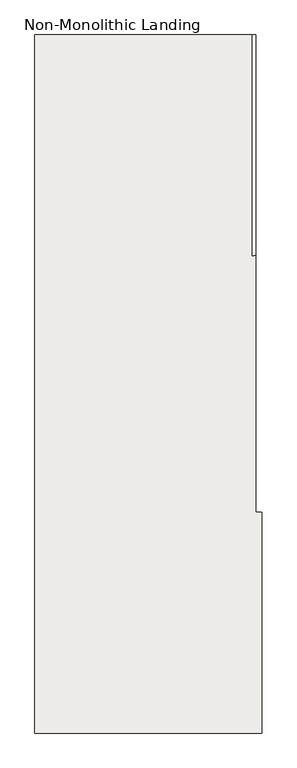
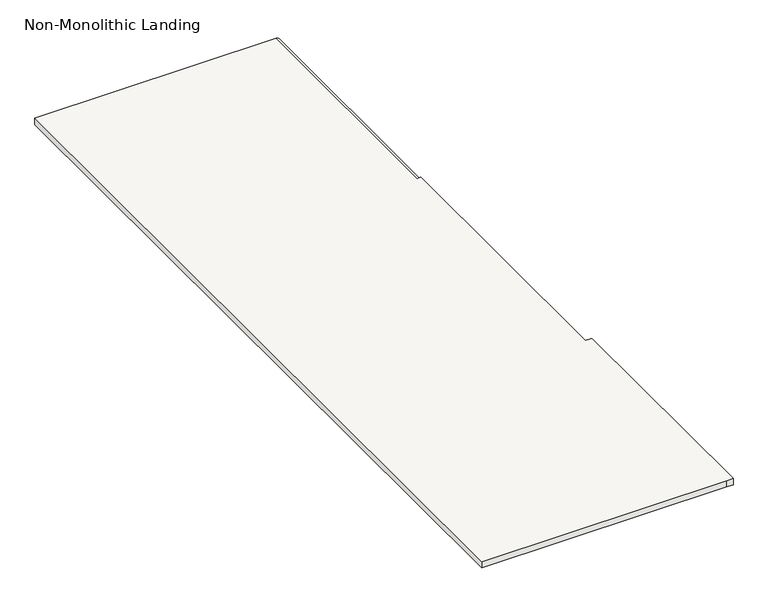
"""IFC4 building model written with IfcOpenShell, lengths in millimetres: slab geometry, Non-Monolithic Landing."""

from ifc_helpers import new_model, si_unit, frame, origin, place, context, project, spatial, circle_curve, source, transform, mapped, element, save
from ifc_brep_helpers import plane_surface, cylinder_surface, advanced_brep


def non_monolithic_landing_e03b7bd7(model_context):
    return source(origin(), model_context, "Body", "AdvancedBrep", [
        advanced_brep(
        [(8321.383999, -2157.718869, 1498.6), (8321.383999, -2157.718869, 1524.0), (8321.383999, -3072.118869, 1524.0), (8334.083999, -3072.118869, 1511.3), (8321.383999, -3072.118869, 1498.6), (8334.083999, -3072.118869, 1524.0), (7419.683999, -2157.718869, 1524.0), (7419.683999, -5051.4417963, 1524.0), (8334.083999, -5051.4417963, 1524.0), (8359.483999, -5051.4417963, 1524.0), (8359.483999, -4137.0417963, 1524.0), (8334.083999, -4137.0417963, 1524.0), (8334.083999, -3072.118869, 1498.6), (8334.083999, -4137.0417963, 1498.6), (8359.483999, -4137.0417963, 1498.6), (8359.483999, -5051.4417963, 1498.6), (8334.083999, -5051.4417963, 1498.6), (7419.683999, -5051.4417963, 1498.6), (7419.683999, -2157.718869, 1498.6)],
        [
            (0, 1, circle_curve(frame((8321.383999, -2157.718869, 1511.3), z_axis=(0.0, -1.0, 0.0), x_axis=(-1.0, 0.0, 0.0)), 12.7)),
            (1, 2),
            (2, 3, circle_curve(frame((8321.383999, -3072.118869, 1511.3), z_axis=(0.0, 1.0, 0.0), x_axis=(-1.0, 0.0, 0.0)), 12.7)),
            (3, 4, circle_curve(frame((8321.383999, -3072.118869, 1511.3), z_axis=(0.0, 1.0, 0.0), x_axis=(-1.0, 0.0, 0.0)), 12.7)),
            (4, 0),
            (5, 2),
            (1, 6),
            (6, 7),
            (7, 8),
            (8, 9),
            (9, 10),
            (10, 11),
            (11, 5),
            (4, 12),
            (12, 13),
            (13, 14),
            (14, 15),
            (15, 16),
            (16, 17),
            (17, 18),
            (18, 0),
            (5, 3),
            (3, 12),
            (18, 6),
            (17, 7),
            (16, 8),
            (15, 9),
            (14, 10),
            (13, 11),
        ],
        [
            cylinder_surface(frame((8321.383999, -2157.718869, 1511.3), z_axis=(0.0, 1.0, 0.0), x_axis=(-1.0, 0.0, 0.0)), 12.7),
            plane_surface(frame((8334.083999, -3072.118869, 1524.0), z_axis=(0.0, 0.0, 1.0), x_axis=(-1.0, 0.0, 0.0))),
            plane_surface(frame((8334.083999, -3072.118869, 1498.6), z_axis=(0.0, 0.0, -1.0), x_axis=(1.0, 0.0, 0.0))),
            plane_surface(frame((8334.083999, -3072.118869, 1524.0), z_axis=(0.0, 1.0, 0.0), x_axis=(0.0, 0.0, -1.0))),
            plane_surface(frame((8321.383999, -2157.718869, 1524.0), z_axis=(0.0, 1.0, 0.0), x_axis=(0.0, 0.0, -1.0))),
            plane_surface(frame((7419.683999, -2157.718869, 1524.0), z_axis=(-1.0, 0.0, 0.0), x_axis=(0.0, 0.0, -1.0))),
            plane_surface(frame((7419.683999, -5051.4417963, 1524.0), z_axis=(0.0, -1.0, 0.0), x_axis=(0.0, 0.0, -1.0))),
            plane_surface(frame((8334.083999, -5051.4417963, 1524.0), z_axis=(0.0, -1.0, 0.0), x_axis=(0.0, 0.0, -1.0))),
            plane_surface(frame((8359.483999, -5051.4417963, 1524.0), z_axis=(1.0, 0.0, 0.0), x_axis=(0.0, 0.0, -1.0))),
            plane_surface(frame((8359.483999, -4137.0417963, 1524.0), z_axis=(0.0, 1.0, 0.0), x_axis=(0.0, 0.0, -1.0))),
            plane_surface(frame((8334.083999, -4137.0417963, 1524.0), z_axis=(1.0, 0.0, 0.0), x_axis=(0.0, 0.0, -1.0))),
        ],
        [
            (0, [[1, 2, 3, 4, 5]]),
            (1, [[6, -2, 7, 8, 9, 10, 11, 12, 13]]),
            (2, [[14, 15, 16, 17, 18, 19, 20, 21, -5]]),
            (3, [[-6, 22, -3]]),
            (3, [[-14, -4, 23]]),
            (4, [[-7, -1, -21, 24]]),
            (5, [[-8, -24, -20, 25]]),
            (6, [[-9, -25, -19, 26]]),
            (7, [[-10, -26, -18, 27]]),
            (8, [[-11, -27, -17, 28]]),
            (9, [[-12, -28, -16, 29]]),
            (10, [[-13, -29, -15, -23, -22]]),
        ],
    ),
    ])


if __name__ == "__main__":
    model = new_model("IFC4")
    model_context = context("Model", 3, world=origin())
    ifc_project = project(units=[si_unit("LENGTHUNIT", "METRE", prefix="MILLI")], contexts=[model_context])
    site = spatial("IfcSite", under=ifc_project)
    building = spatial("IfcBuilding", under=site)
    placement = place(None, origin())
    non_monolithic_landing_shape = non_monolithic_landing_e03b7bd7(model_context)
    element("IfcSlab", 1, ObjectType="Non-Monolithic Landing", at=placement, inside=building, context=model_context, shape_type="MappedRepresentation", body=[
        mapped(non_monolithic_landing_shape, transform((0.0, 0.0, 0.0), x_axis=(1.0, 0.0, 0.0), y_axis=(0.0, 1.0, 0.0), z_axis=(0.0, 0.0, 1.0))),
    ])
    save(model, "model.ifc")
